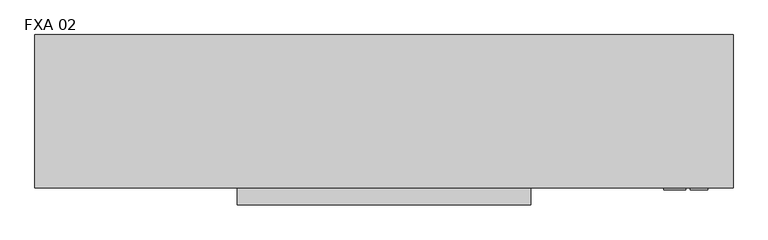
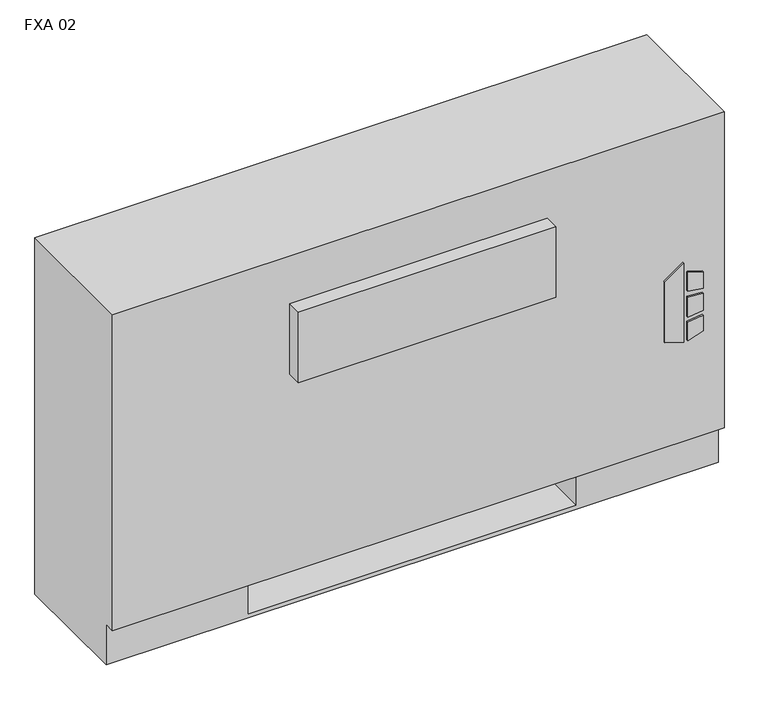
"""IFC4 building model written with IfcOpenShell, lengths in millimetres: proxy geometry, Vertical_Fan_Coil_Unit_-_FXA_-_IEC_-_2-Pipe_FS-FR_RH_2022 : FXA 02."""

from ifc_helpers import new_model, si_unit, point, frame, frame_2d, origin, place, context, project, spatial, polyline, circle_curve, trimmed, segment, composite_curve, outline, extrude, source, transform, mapped, element, save
from ifc_brep_helpers import plane_surface, revolved_surface, advanced_brep


def fxa_02_dd02e0c0(model_context):
    return source(origin(), model_context, "Body", "SolidModel", [
        extrude(outline(polyline([(263.9480703, 569.9868862), (254.0, 602.1602728), (396.1709244, 602.1602728), (373.1489183, 569.9868862), (263.9480703, 569.9868862)])), frame((0.0, 12.7, 0.0), z_axis=(0.0, 1.0, 0.0), x_axis=(0.0, 0.0, 1.0)), (0.0, 0.0, 1.0), 3.175),
        extrude(outline(polyline([(342.9473557, 608.9186058), (339.7449632, 635.0), (368.9738042, 635.0), (377.0382193, 608.9186058), (342.9473557, 608.9186058)])), frame((0.0, 12.7, 0.0), z_axis=(0.0, 1.0, 0.0), x_axis=(0.0, 0.0, 1.0)), (0.0, 0.0, 1.0), 3.175),
        extrude(outline(polyline([(291.0838288, 635.0), (287.4183279, 608.9186058), (254.0, 608.9186058), (262.6342372, 635.0), (291.0838288, 635.0)])), frame((0.0, 12.7, 0.0), z_axis=(0.0, 1.0, 0.0), x_axis=(0.0, 0.0, 1.0)), (0.0, 0.0, 1.0), 3.175),
        extrude(outline(polyline([(330.3989903, 635.0), (332.6808166, 608.9186058), (296.7432681, 608.9186058), (299.4845331, 635.0), (330.3989903, 635.0)])), frame((0.0, 12.7, 0.0), z_axis=(0.0, 1.0, 0.0), x_axis=(0.0, 0.0, 1.0)), (0.0, 0.0, 1.0), 3.175),
        extrude(outline(polyline([(-247.65, 81.534), (-247.65, 223.266), (-127.0, 223.266), (-127.0, 81.534), (-247.65, 81.534)])), frame((0.0, 0.0, 327.025), z_axis=(0.0, 0.0, 1.0), x_axis=(1.0, 0.0, 0.0)), (0.0, 0.0, 1.0), 260.35),
        extrude(outline(composite_curve([segment(trimmed(circle_curve(frame_2d((495.3, 130.175)), 9.525), [point((485.775, 130.175))], [point((504.825, 130.175))], False, "CARTESIAN"), True, "CONTINUOUS"), segment(trimmed(circle_curve(frame_2d((495.3, 130.175)), 9.525), [point((504.825, 130.175))], [point((485.775, 130.175))], False, "CARTESIAN"), True, "CONTINUOUS")], self_intersect=False)), frame((0.0, 0.0, 101.6), z_axis=(0.0, 0.0, 1.0), x_axis=(1.0, 0.0, 0.0)), (0.0, 0.0, 1.0), 25.4),
        extrude(outline(polyline([(596.9, 196.85), (596.9, 63.5), (431.8, 63.5), (431.8, 196.85), (596.9, 196.85)])), frame((0.0, 0.0, 127.0), z_axis=(0.0, 0.0, 1.0), x_axis=(1.0, 0.0, 0.0)), (0.0, 0.0, 1.0), 50.8),
        extrude(outline(polyline([(371.475, -9.525), (-66.675, -9.525), (-66.675, 15.875), (371.475, 15.875), (371.475, -9.525)])), frame((0.0, 0.0, 428.625), z_axis=(0.0, 0.0, 1.0), x_axis=(1.0, 0.0, 0.0)), (0.0, 0.0, 1.0), 127.0),
        extrude(outline(composite_curve([segment(trimmed(circle_curve(frame_2d((93.1926, 485.5972)), 7.9375), [point((93.1926, 493.5347))], [point((93.1926, 477.6597))], False, "CARTESIAN"), True, "CONTINUOUS"), segment(trimmed(circle_curve(frame_2d((93.1926, 485.5972)), 7.9375), [point((93.1926, 477.6597))], [point((93.1926, 493.5347))], False, "CARTESIAN"), True, "CONTINUOUS")], self_intersect=False)), frame((431.8, 0.0, 0.0), z_axis=(1.0, 0.0, 0.0), x_axis=(0.0, 1.0, 0.0)), (0.0, 0.0, 1.0), 50.8),
        extrude(outline(composite_curve([segment(trimmed(circle_curve(frame_2d((141.3002, 458.9526)), 7.9375), [point((141.3002, 466.8901))], [point((141.3002, 451.0151))], False, "CARTESIAN"), True, "CONTINUOUS"), segment(trimmed(circle_curve(frame_2d((141.3002, 458.9526)), 7.9375), [point((141.3002, 451.0151))], [point((141.3002, 466.8901))], False, "CARTESIAN"), True, "CONTINUOUS")], self_intersect=False)), frame((431.8, 0.0, 0.0), z_axis=(1.0, 0.0, 0.0), x_axis=(0.0, 1.0, 0.0)), (0.0, 0.0, 1.0), 50.8),
        advanced_brep(
        [(673.1, 244.475, 641.35), (-368.3, 244.475, 641.35), (-368.3, 15.875, 641.35), (673.1, 15.875, 641.35), (-368.3, 244.475, 0.0), (673.1, 244.475, 0.0), (673.1, 34.925, 0.0), (-368.3, 34.925, 0.0), (431.8, 244.475, 73.025), (660.4, 244.475, 73.025), (660.4, 244.475, 628.65), (431.8, 244.475, 628.65), (431.8, 244.475, 414.8650565), (460.375, 244.475, 414.8650565), (460.375, 244.475, 385.2349435), (431.8, 244.475, 385.2349435), (431.8, 244.475, 287.3375), (460.375, 244.475, 287.3375), (460.375, 244.475, 258.7625), (431.8, 244.475, 258.7625), (431.8, 244.475, 141.2875), (460.375, 244.475, 141.2875), (460.375, 244.475, 112.7125), (431.8, 244.475, 112.7125), (-127.0, 244.475, 628.65), (-355.6, 244.475, 628.65), (-355.6, 244.475, 73.025), (-127.0, 244.475, 73.025), (-127.0, 244.475, 112.7125), (-155.575, 244.475, 112.7125), (-155.575, 244.475, 141.2875), (-127.0, 244.475, 141.2875), (-127.0, 244.475, 258.7625), (-155.575, 244.475, 258.7625), (-155.575, 244.475, 287.3375), (-127.0, 244.475, 287.3375), (-127.0, 244.475, 385.2349435), (-155.575, 244.475, 385.2349435), (-155.575, 244.475, 414.8650565), (-127.0, 244.475, 414.8650565), (450.0626, 244.475, 127.0), (438.9374, 244.475, 127.0), (450.0626, 244.475, 400.05), (438.9374, 244.475, 400.05), (450.0626, 244.475, 273.05), (438.9374, 244.475, 273.05), (-134.1374, 244.475, 127.0), (-145.2626, 244.475, 127.0), (-134.1374, 244.475, 273.05), (-145.2626, 244.475, 273.05), (-134.1374, 244.475, 400.05), (-145.2626, 244.475, 400.05), (-368.3, 34.925, 73.025), (-368.3, 15.875, 73.025), (673.1, 15.875, 73.025), (673.1, 34.925, 73.025), (-127.0, 34.925, 73.025), (-127.0, 219.075, 73.025), (431.8, 219.075, 73.025), (431.8, 34.925, 73.025), (431.8, 34.925, 6.35), (-127.0, 34.925, 6.35), (431.8, 41.275, 628.65), (660.4, 41.275, 628.65), (660.4, 41.275, 73.025), (431.8, 41.275, 73.025), (-127.0, 41.275, 628.65), (-127.0, 41.275, 73.025), (-355.6, 41.275, 73.025), (-355.6, 41.275, 628.65), (431.8, 219.075, 73.025), (431.8, 238.125, 112.7125), (431.8, 238.125, 141.2875), (431.8, 238.125, 258.7625), (431.8, 238.125, 287.3375), (431.8, 238.125, 385.2349435), (431.8, 238.125, 414.8650565), (-127.0, 219.075, 73.025), (-127.0, 238.125, 414.8650565), (-127.0, 238.125, 385.2349435), (-127.0, 238.125, 287.3375), (-127.0, 238.125, 258.7625), (-127.0, 238.125, 141.2875), (-127.0, 238.125, 112.7125), (-127.0, 219.075, 6.35), (431.8, 219.075, 6.35), (460.375, 238.125, 112.7125), (460.375, 238.125, 141.2875), (438.9374, 238.125, 127.0), (450.0626, 238.125, 127.0), (460.375, 238.125, 258.7625), (460.375, 238.125, 287.3375), (438.9374, 238.125, 273.05), (450.0626, 238.125, 273.05), (460.375, 238.125, 385.2349435), (460.375, 238.125, 414.8650565), (438.9374, 238.125, 400.05), (450.0626, 238.125, 400.05), (-155.575, 238.125, 141.2875), (-155.575, 238.125, 112.7125), (-145.2626, 238.125, 127.0), (-134.1374, 238.125, 127.0), (-155.575, 238.125, 287.3375), (-155.575, 238.125, 258.7625), (-145.2626, 238.125, 273.05), (-134.1374, 238.125, 273.05), (-155.575, 238.125, 414.8650565), (-155.575, 238.125, 385.2349435), (-145.2626, 238.125, 400.05), (-134.1374, 238.125, 400.05)],
        [
            (0, 1),
            (1, 2),
            (2, 3),
            (3, 0),
            (4, 5),
            (5, 6),
            (6, 7),
            (7, 4),
            (0, 5),
            (4, 1),
            (8, 9),
            (9, 10),
            (10, 11),
            (11, 12),
            (12, 13),
            (13, 14),
            (14, 15),
            (15, 16),
            (16, 17),
            (17, 18),
            (18, 19),
            (19, 20),
            (20, 21),
            (21, 22),
            (22, 23),
            (23, 8),
            (24, 25),
            (25, 26),
            (26, 27),
            (27, 28),
            (28, 29),
            (29, 30),
            (30, 31),
            (31, 32),
            (32, 33),
            (33, 34),
            (34, 35),
            (35, 36),
            (36, 37),
            (37, 38),
            (38, 39),
            (39, 24),
            (40, 41, circle_curve(frame((444.5, 244.475, 127.0), z_axis=(0.0, -1.0, 0.0), x_axis=(-1.0, 0.0, 0.0)), 5.5626)),
            (41, 40, circle_curve(frame((444.5, 244.475, 127.0), z_axis=(0.0, -1.0, 0.0), x_axis=(-1.0, 0.0, 0.0)), 5.5626)),
            (42, 43, circle_curve(frame((444.5, 244.475, 400.05), z_axis=(0.0, -1.0, 0.0), x_axis=(-1.0, 0.0, 0.0)), 5.5626)),
            (43, 42, circle_curve(frame((444.5, 244.475, 400.05), z_axis=(0.0, -1.0, 0.0), x_axis=(-1.0, 0.0, 0.0)), 5.5626)),
            (44, 45, circle_curve(frame((444.5, 244.475, 273.05), z_axis=(0.0, -1.0, 0.0), x_axis=(-1.0, 0.0, 0.0)), 5.5626)),
            (45, 44, circle_curve(frame((444.5, 244.475, 273.05), z_axis=(0.0, -1.0, 0.0), x_axis=(-1.0, 0.0, 0.0)), 5.5626)),
            (46, 47, circle_curve(frame((-139.7, 244.475, 127.0), z_axis=(0.0, -1.0, 0.0), x_axis=(-1.0, 0.0, 0.0)), 5.5626)),
            (47, 46, circle_curve(frame((-139.7, 244.475, 127.0), z_axis=(0.0, -1.0, 0.0), x_axis=(-1.0, 0.0, 0.0)), 5.5626)),
            (48, 49, circle_curve(frame((-139.7, 244.475, 273.05), z_axis=(0.0, -1.0, 0.0), x_axis=(-1.0, 0.0, 0.0)), 5.5626)),
            (49, 48, circle_curve(frame((-139.7, 244.475, 273.05), z_axis=(0.0, -1.0, 0.0), x_axis=(-1.0, 0.0, 0.0)), 5.5626)),
            (50, 51, circle_curve(frame((-139.7, 244.475, 400.05), z_axis=(0.0, -1.0, 0.0), x_axis=(-1.0, 0.0, 0.0)), 5.5626)),
            (51, 50, circle_curve(frame((-139.7, 244.475, 400.05), z_axis=(0.0, -1.0, 0.0), x_axis=(-1.0, 0.0, 0.0)), 5.5626)),
            (7, 52),
            (52, 53),
            (53, 2),
            (53, 54),
            (54, 3),
            (54, 55),
            (55, 6),
            (52, 56),
            (56, 57),
            (57, 58),
            (58, 59),
            (59, 55),
            (59, 60),
            (60, 61),
            (61, 56),
            (62, 63),
            (63, 64),
            (64, 65),
            (65, 62),
            (66, 67),
            (67, 68),
            (68, 69),
            (69, 66),
            (65, 70),
            (70, 8),
            (23, 71),
            (71, 72),
            (72, 20),
            (19, 73),
            (73, 74),
            (74, 16),
            (15, 75),
            (75, 76),
            (76, 12),
            (11, 62),
            (64, 9),
            (63, 10),
            (69, 25),
            (24, 66),
            (68, 26),
            (67, 77),
            (77, 27),
            (39, 78),
            (78, 79),
            (79, 36),
            (35, 80),
            (80, 81),
            (81, 32),
            (31, 82),
            (82, 83),
            (83, 28),
            (57, 84),
            (84, 85),
            (85, 58),
            (85, 60),
            (84, 61),
            (71, 86),
            (86, 87),
            (87, 72),
            (88, 89, circle_curve(frame((444.5, 238.125, 127.0), z_axis=(0.0, 1.0, 0.0), x_axis=(-1.0, 0.0, 0.0)), 5.5626)),
            (89, 88, circle_curve(frame((444.5, 238.125, 127.0), z_axis=(0.0, 1.0, 0.0), x_axis=(-1.0, 0.0, 0.0)), 5.5626)),
            (73, 90),
            (90, 91),
            (91, 74),
            (92, 93, circle_curve(frame((444.5, 238.125, 273.05), z_axis=(0.0, 1.0, 0.0), x_axis=(-1.0, 0.0, 0.0)), 5.5626)),
            (93, 92, circle_curve(frame((444.5, 238.125, 273.05), z_axis=(0.0, 1.0, 0.0), x_axis=(-1.0, 0.0, 0.0)), 5.5626)),
            (75, 94),
            (94, 95),
            (95, 76),
            (96, 97, circle_curve(frame((444.5, 238.125, 400.05), z_axis=(0.0, 1.0, 0.0), x_axis=(-1.0, 0.0, 0.0)), 5.5626)),
            (97, 96, circle_curve(frame((444.5, 238.125, 400.05), z_axis=(0.0, 1.0, 0.0), x_axis=(-1.0, 0.0, 0.0)), 5.5626)),
            (98, 99),
            (99, 83),
            (82, 98),
            (100, 101, circle_curve(frame((-139.7, 238.125, 127.0), z_axis=(0.0, 1.0, 0.0), x_axis=(-1.0, 0.0, 0.0)), 5.5626)),
            (101, 100, circle_curve(frame((-139.7, 238.125, 127.0), z_axis=(0.0, 1.0, 0.0), x_axis=(-1.0, 0.0, 0.0)), 5.5626)),
            (102, 103),
            (103, 81),
            (80, 102),
            (104, 105, circle_curve(frame((-139.7, 238.125, 273.05), z_axis=(0.0, 1.0, 0.0), x_axis=(-1.0, 0.0, 0.0)), 5.5626)),
            (105, 104, circle_curve(frame((-139.7, 238.125, 273.05), z_axis=(0.0, 1.0, 0.0), x_axis=(-1.0, 0.0, 0.0)), 5.5626)),
            (106, 107),
            (107, 79),
            (78, 106),
            (108, 109, circle_curve(frame((-139.7, 238.125, 400.05), z_axis=(0.0, 1.0, 0.0), x_axis=(-1.0, 0.0, 0.0)), 5.5626)),
            (109, 108, circle_curve(frame((-139.7, 238.125, 400.05), z_axis=(0.0, 1.0, 0.0), x_axis=(-1.0, 0.0, 0.0)), 5.5626)),
            (87, 21),
            (86, 22),
            (91, 17),
            (90, 18),
            (95, 13),
            (94, 14),
            (30, 98),
            (99, 29),
            (34, 102),
            (103, 33),
            (38, 106),
            (107, 37),
            (88, 41),
            (40, 89),
            (96, 43),
            (42, 97),
            (92, 45),
            (44, 93),
            (100, 47),
            (46, 101),
            (104, 49),
            (48, 105),
            (108, 51),
            (50, 109),
        ],
        [
            plane_surface(frame((-368.3, 244.475, 641.35), z_axis=(0.0, 0.0, 1.0), x_axis=(-1.0, 0.0, 0.0))),
            plane_surface(frame((-368.3, 244.475, 0.0), z_axis=(0.0, 0.0, -1.0), x_axis=(1.0, 0.0, 0.0))),
            plane_surface(frame((673.1, 244.475, 641.35), z_axis=(0.0, 1.0, 0.0), x_axis=(0.0, 0.0, -1.0))),
            plane_surface(frame((-368.3, 244.475, 641.35), z_axis=(-1.0, 0.0, 0.0), x_axis=(0.0, 0.0, -1.0))),
            plane_surface(frame((-368.3, 15.875, 641.35), z_axis=(0.0, -1.0, 0.0), x_axis=(0.0, 0.0, -1.0))),
            plane_surface(frame((673.1, 15.875, 641.35), z_axis=(1.0, 0.0, 0.0), x_axis=(0.0, 0.0, -1.0))),
            plane_surface(frame((-368.3, 15.875, 73.025), z_axis=(0.0, 0.0, -1.0), x_axis=(1.0, 0.0, 0.0))),
            plane_surface(frame((-368.3, 34.925, 73.025), z_axis=(0.0, -1.0, 0.0), x_axis=(1.0, 0.0, 0.0))),
            plane_surface(frame((431.8, 41.275, 628.65), z_axis=(0.0, 1.0, 0.0), x_axis=(0.0, 0.0, -1.0))),
            plane_surface(frame((431.8, 41.275, 628.65), z_axis=(1.0, 0.0, 0.0), x_axis=(0.0, 1.0, 0.0))),
            plane_surface(frame((431.8, 41.275, 73.025), z_axis=(0.0, 0.0, 1.0), x_axis=(0.0, 1.0, 0.0))),
            plane_surface(frame((660.4, 41.275, 73.025), z_axis=(-1.0, 0.0, 0.0), x_axis=(0.0, 1.0, 0.0))),
            plane_surface(frame((660.4, 41.275, 628.65), z_axis=(0.0, 0.0, -1.0), x_axis=(0.0, 1.0, 0.0))),
            plane_surface(frame((-127.0, 41.275, 628.65), z_axis=(0.0, 0.0, -1.0), x_axis=(0.0, 1.0, 0.0))),
            plane_surface(frame((-355.6, 41.275, 628.65), z_axis=(1.0, 0.0, 0.0), x_axis=(0.0, 1.0, 0.0))),
            plane_surface(frame((-355.6, 41.275, 73.025), z_axis=(0.0, 0.0, 1.0), x_axis=(0.0, 1.0, 0.0))),
            plane_surface(frame((-127.0, 41.275, 73.025), z_axis=(-1.0, 0.0, 0.0), x_axis=(0.0, 1.0, 0.0))),
            plane_surface(frame((431.8, 219.075, 73.025), z_axis=(0.0, -1.0, 0.0), x_axis=(0.0, 0.0, -1.0))),
            plane_surface(frame((431.8, 219.075, 73.025), z_axis=(-1.0, 0.0, 0.0), x_axis=(0.0, -1.0, 0.0))),
            plane_surface(frame((431.8, 219.075, 6.35), z_axis=(0.0, 0.0, 1.0), x_axis=(0.0, -1.0, 0.0))),
            plane_surface(frame((-127.0, 219.075, 6.35), z_axis=(1.0, 0.0, 0.0), x_axis=(0.0, -1.0, 0.0))),
            plane_surface(frame((460.375, 238.125, 141.2875), z_axis=(0.0, -1.0, 0.0), x_axis=(-1.0, 0.0, 0.0))),
            plane_surface(frame((431.8, 244.475, 141.2875), z_axis=(0.0, 0.0, 1.0), x_axis=(0.0, -1.0, 0.0))),
            plane_surface(frame((460.375, 244.475, 141.2875), z_axis=(1.0, 0.0, 0.0), x_axis=(0.0, -1.0, 0.0))),
            plane_surface(frame((460.375, 244.475, 112.7125), z_axis=(0.0, 0.0, -1.0), x_axis=(0.0, -1.0, 0.0))),
            plane_surface(frame((431.8, 244.475, 287.3375), z_axis=(0.0, 0.0, 1.0), x_axis=(0.0, -1.0, 0.0))),
            plane_surface(frame((460.375, 244.475, 287.3375), z_axis=(1.0, 0.0, 0.0), x_axis=(0.0, -1.0, 0.0))),
            plane_surface(frame((460.375, 244.475, 258.7625), z_axis=(0.0, 0.0, -1.0), x_axis=(0.0, -1.0, 0.0))),
            plane_surface(frame((431.8, 244.475, 414.8650565), z_axis=(0.0, 0.0, 1.0), x_axis=(0.0, -1.0, 0.0))),
            plane_surface(frame((460.375, 244.475, 414.8650565), z_axis=(1.0, 0.0, 0.0), x_axis=(0.0, -1.0, 0.0))),
            plane_surface(frame((460.375, 244.475, 385.2349435), z_axis=(0.0, 0.0, -1.0), x_axis=(0.0, -1.0, 0.0))),
            plane_surface(frame((-155.575, 244.475, 141.2875), z_axis=(0.0, 0.0, 1.0), x_axis=(0.0, -1.0, 0.0))),
            plane_surface(frame((-127.0, 244.475, 112.7125), z_axis=(0.0, 0.0, -1.0), x_axis=(0.0, -1.0, 0.0))),
            plane_surface(frame((-155.575, 244.475, 112.7125), z_axis=(-1.0, 0.0, 0.0), x_axis=(0.0, -1.0, 0.0))),
            plane_surface(frame((-155.575, 244.475, 287.3375), z_axis=(0.0, 0.0, 1.0), x_axis=(0.0, -1.0, 0.0))),
            plane_surface(frame((-127.0, 244.475, 258.7625), z_axis=(0.0, 0.0, -1.0), x_axis=(0.0, -1.0, 0.0))),
            plane_surface(frame((-155.575, 244.475, 258.7625), z_axis=(-1.0, 0.0, 0.0), x_axis=(0.0, -1.0, 0.0))),
            plane_surface(frame((-155.575, 244.475, 414.8650565), z_axis=(0.0, 0.0, 1.0), x_axis=(0.0, -1.0, 0.0))),
            plane_surface(frame((-127.0, 244.475, 385.2349435), z_axis=(0.0, 0.0, -1.0), x_axis=(0.0, -1.0, 0.0))),
            plane_surface(frame((-155.575, 244.475, 385.2349435), z_axis=(-1.0, 0.0, 0.0), x_axis=(0.0, -1.0, 0.0))),
            revolved_surface(polyline([(438.9374, 238.125, 127.0), (438.9374, 244.475, 127.0)]), (444.5, 244.475, 127.0), (0.0, -1.0, 0.0)),
            revolved_surface(polyline([(438.9374, 238.125, 400.05), (438.9374, 244.475, 400.05)]), (444.5, 244.475, 400.05), (0.0, -1.0, 0.0)),
            revolved_surface(polyline([(438.9374, 238.125, 273.05), (438.9374, 244.475, 273.05)]), (444.5, 244.475, 273.05), (0.0, -1.0, 0.0)),
            revolved_surface(polyline([(-145.2626, 238.125, 127.0), (-145.2626, 244.475, 127.0)]), (-139.7, 244.475, 127.0), (0.0, -1.0, 0.0)),
            revolved_surface(polyline([(-145.2626, 238.125, 273.05), (-145.2626, 244.475, 273.05)]), (-139.7, 244.475, 273.05), (0.0, -1.0, 0.0)),
            revolved_surface(polyline([(-145.2626, 238.125, 400.05), (-145.2626, 244.475, 400.05)]), (-139.7, 244.475, 400.05), (0.0, -1.0, 0.0)),
        ],
        [
            (0, [[1, 2, 3, 4]]),
            (1, [[5, 6, 7, 8]]),
            (2, [[-1, 9, -5, 10], [11, 12, 13, 14, 15, 16, 17, 18, 19, 20, 21, 22, 23, 24, 25, 26], [27, 28, 29, 30, 31, 32, 33, 34, 35, 36, 37, 38, 39, 40, 41, 42], [43, 44], [45, 46], [47, 48], [49, 50], [51, 52], [53, 54]]),
            (3, [[-2, -10, -8, 55, 56, 57]]),
            (4, [[-3, -57, 58, 59]]),
            (5, [[-4, -59, 60, 61, -6, -9]]),
            (6, [[-56, 62, 63, 64, 65, 66, -60, -58]]),
            (7, [[-7, -61, -66, 67, 68, 69, -62, -55]]),
            (8, [[70, 71, 72, 73]]),
            (8, [[74, 75, 76, 77]]),
            (9, [[-73, 78, 79, -26, 80, 81, 82, -22, 83, 84, 85, -18, 86, 87, 88, -14, 89]]),
            (10, [[-72, 90, -11, -79, -78]]),
            (11, [[-71, 91, -12, -90]]),
            (12, [[-70, -89, -13, -91]]),
            (13, [[-77, 92, -27, 93]]),
            (14, [[-76, 94, -28, -92]]),
            (15, [[-75, 95, 96, -29, -94]]),
            (16, [[-74, -93, -42, 97, 98, 99, -38, 100, 101, 102, -34, 103, 104, 105, -30, -96, -95]]),
            (17, [[-64, 106, 107, 108]]),
            (18, [[-108, 109, -67, -65]]),
            (19, [[-107, 110, -68, -109]]),
            (20, [[-106, -63, -69, -110]]),
            (21, [[111, 112, 113, -81], [114, 115]]),
            (21, [[116, 117, 118, -84], [119, 120]]),
            (21, [[121, 122, 123, -87], [124, 125]]),
            (21, [[126, 127, -104, 128], [129, 130]]),
            (21, [[131, 132, -101, 133], [134, 135]]),
            (21, [[136, 137, -98, 138], [139, 140]]),
            (22, [[-113, 141, -23, -82]]),
            (23, [[-112, 142, -24, -141]]),
            (24, [[-111, -80, -25, -142]]),
            (25, [[-118, 143, -19, -85]]),
            (26, [[-117, 144, -20, -143]]),
            (27, [[-116, -83, -21, -144]]),
            (28, [[-123, 145, -15, -88]]),
            (29, [[-122, 146, -16, -145]]),
            (30, [[-121, -86, -17, -146]]),
            (31, [[-128, -103, -33, 147]]),
            (32, [[-127, 148, -31, -105]]),
            (33, [[-126, -147, -32, -148]]),
            (34, [[-133, -100, -37, 149]]),
            (35, [[-132, 150, -35, -102]]),
            (36, [[-131, -149, -36, -150]]),
            (37, [[-138, -97, -41, 151]]),
            (38, [[-137, 152, -39, -99]]),
            (39, [[-136, -151, -40, -152]]),
            (40, [[153, -43, 154, -114]]),
            (40, [[-153, -115, -154, -44]]),
            (41, [[155, -45, 156, -124]]),
            (41, [[-155, -125, -156, -46]]),
            (42, [[157, -47, 158, -119]]),
            (42, [[-157, -120, -158, -48]]),
            (43, [[159, -49, 160, -129]]),
            (43, [[-159, -130, -160, -50]]),
            (44, [[161, -51, 162, -134]]),
            (44, [[-161, -135, -162, -52]]),
            (45, [[163, -53, 164, -139]]),
            (45, [[-163, -140, -164, -54]]),
        ],
    ),
    ])


if __name__ == "__main__":
    model = new_model("IFC4")
    model_context = context("Model", 3, world=origin())
    ifc_project = project(units=[si_unit("LENGTHUNIT", "METRE", prefix="MILLI")], contexts=[model_context])
    site = spatial("IfcSite", under=ifc_project)
    building = spatial("IfcBuilding", under=site)
    placement = place(None, origin())
    fxa_02_shape = fxa_02_dd02e0c0(model_context)
    element("IfcBuildingElementProxy", 1, Name="Vertical_Fan_Coil_Unit_-_FXA_-_IEC_-_2-Pipe_FS-FR_RH_2022 : FXA 02", ObjectType="Vertical_Fan_Coil_Unit_-_FXA_-_IEC_-_2-Pipe_FS-FR_RH_2022 : FXA 02", at=placement, inside=building, context=model_context, shape_type="MappedRepresentation", body=[
        mapped(fxa_02_shape, transform((0.0, 0.0, 0.0), x_axis=(1.0, 0.0, 0.0), y_axis=(0.0, 1.0, 0.0), z_axis=(0.0, 0.0, 1.0))),
    ])
    save(model, "model.ifc")
